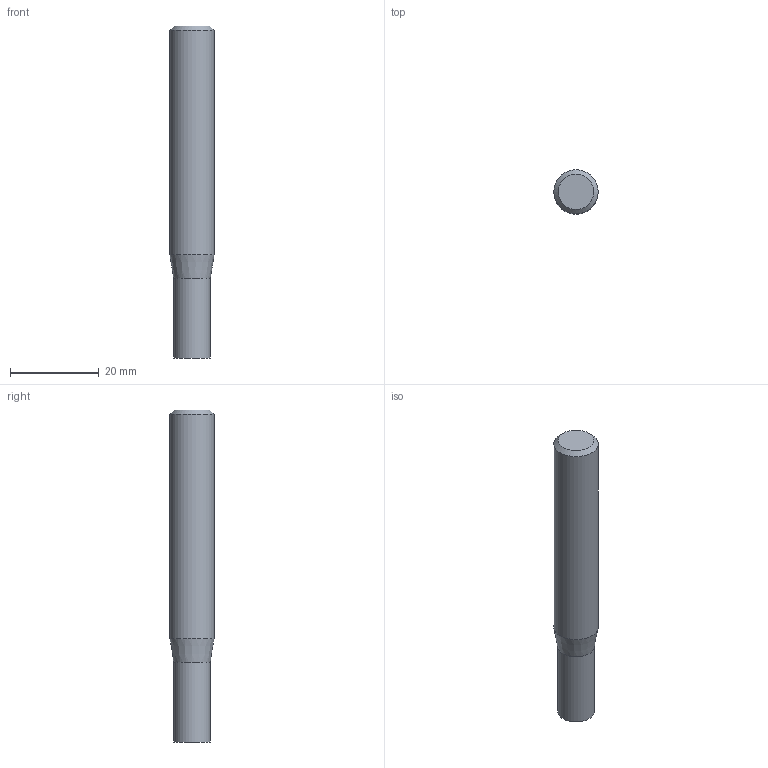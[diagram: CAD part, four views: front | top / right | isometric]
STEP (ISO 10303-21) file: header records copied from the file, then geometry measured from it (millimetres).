
FILE_DESCRIPTION((''),'2;1');
FILE_NAME('C:\Users\nsx150\AppData\Local\Temp\Mastercam 2021\98T1Q6BTT1\TEMP.step','2021-10-21T14:49:37',(''),(''),'STEP Write','Mastercam 2021 ... CNC Software, Inc.','');
FILE_SCHEMA(('AUTOMOTIVE_DESIGN'));
Length unit declared in the file: millimetre
Products named in the file (1): None
Bounding box: 10 x 10 x 75 mm (x, y, z)
Volume: 5368.4 mm3; surface area: 2468.8 mm2
Topology: 2 solids, 2 shells, 8 faces, 10 edges, 6 vertices
Faces by surface type: plane 4, cylinder 2, cone 2
Full cylindrical faces by diameter (mm): 8.3 x1, 10 x1
Entity records: 190 total; most frequent: DIRECTION 32, CARTESIAN_POINT 22, AXIS2_PLACEMENT_3D 16, ORIENTED_EDGE 12, EDGE_LOOP 12, STYLED_ITEM 11, ADVANCED_FACE 8, VERTEX_POINT 6
